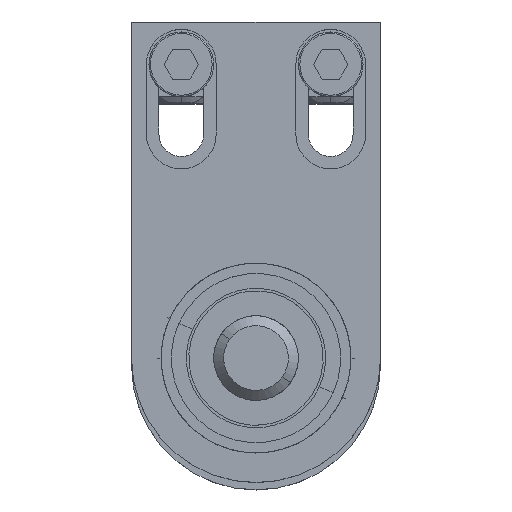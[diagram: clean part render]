
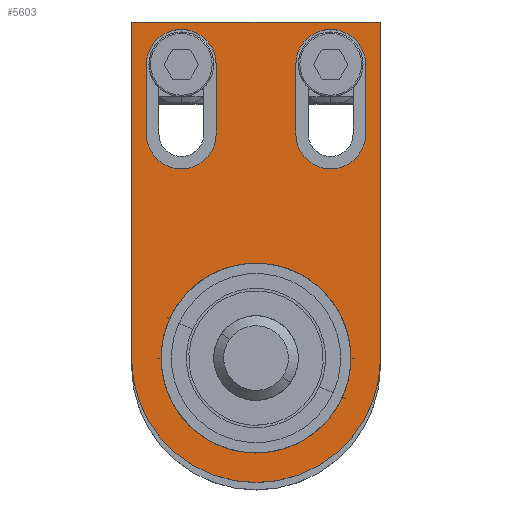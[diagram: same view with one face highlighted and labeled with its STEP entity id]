
A CAD part, top view. The second image highlights one B-rep face of the part: STEP entity #5603.
In plain terms, the highlighted planar face has unit normal (0, 0, 1).
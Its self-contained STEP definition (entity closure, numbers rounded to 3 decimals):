
#43 = CARTESIAN_POINT ( 'NONE',  ( 8., 59., 6. ) ) ;
#99 = DIRECTION ( 'NONE',  ( 0., 0., 1. ) ) ;
#132 = ORIENTED_EDGE ( 'NONE', *, *, #3735, .F. ) ;
#167 = CARTESIAN_POINT ( 'NONE',  ( 22., 59., 6. ) ) ;
#299 = ORIENTED_EDGE ( 'NONE', *, *, #4141, .T. ) ;
#303 = ORIENTED_EDGE ( 'NONE', *, *, #3632, .F. ) ;
#308 = ORIENTED_EDGE ( 'NONE', *, *, #4444, .F. ) ;
#414 = CARTESIAN_POINT ( 'NONE',  ( 22., 45., 6. ) ) ;
#436 = AXIS2_PLACEMENT_3D ( 'NONE', #4844, #2065, #5330 ) ;
#437 = DIRECTION ( 'NONE',  ( 1., 0., 0. ) ) ;
#458 = EDGE_CURVE ( 'NONE', #1778, #5348, #3074, .T. ) ;
#552 = VECTOR ( 'NONE', #2283, 1000. ) ;
#781 = CARTESIAN_POINT ( 'NONE',  ( 25., 67.5, 6. ) ) ;
#810 = EDGE_CURVE ( 'NONE', #1026, #5552, #5564, .T. ) ;
#874 = CARTESIAN_POINT ( 'NONE',  ( -8., 59., 6. ) ) ;
#889 = CARTESIAN_POINT ( 'NONE',  ( -15., 59., 6. ) ) ;
#916 = CARTESIAN_POINT ( 'NONE',  ( 0., 0., 6. ) ) ;
#1026 = VERTEX_POINT ( 'NONE', #1683 ) ;
#1075 = AXIS2_PLACEMENT_3D ( 'NONE', #5118, #99, #2319 ) ;
#1082 = ORIENTED_EDGE ( 'NONE', *, *, #1971, .T. ) ;
#1098 = EDGE_CURVE ( 'NONE', #3163, #1290, #3086, .T. ) ;
#1169 = VECTOR ( 'NONE', #2685, 1000. ) ;
#1195 = DIRECTION ( 'NONE',  ( 0., 1., 0. ) ) ;
#1290 = VERTEX_POINT ( 'NONE', #2784 ) ;
#1302 = CARTESIAN_POINT ( 'NONE',  ( 19.079, 0., 6. ) ) ;
#1331 = VECTOR ( 'NONE', #1195, 1000. ) ;
#1382 = DIRECTION ( 'NONE',  ( 0., -1., 0. ) ) ;
#1413 = DIRECTION ( 'NONE',  ( 0., 0., 1. ) ) ;
#1414 = CIRCLE ( 'NONE', #4066, 7. ) ;
#1430 = AXIS2_PLACEMENT_3D ( 'NONE', #2843, #4186, #6015 ) ;
#1574 = DIRECTION ( 'NONE',  ( 0., 1., 0. ) ) ;
#1647 = ORIENTED_EDGE ( 'NONE', *, *, #1805, .F. ) ;
#1676 = ORIENTED_EDGE ( 'NONE', *, *, #5867, .F. ) ;
#1683 = CARTESIAN_POINT ( 'NONE',  ( 8., 45., 6. ) ) ;
#1778 = VERTEX_POINT ( 'NONE', #5851 ) ;
#1803 = DIRECTION ( 'NONE',  ( 1., 0., 0. ) ) ;
#1805 = EDGE_CURVE ( 'NONE', #3572, #5338, #4705, .T. ) ;
#1971 = EDGE_CURVE ( 'NONE', #2028, #5291, #5980, .T. ) ;
#1979 = DIRECTION ( 'NONE',  ( 1., 0., 0. ) ) ;
#2018 = CARTESIAN_POINT ( 'NONE',  ( -25., 0., 6. ) ) ;
#2028 = VERTEX_POINT ( 'NONE', #2018 ) ;
#2065 = DIRECTION ( 'NONE',  ( 0., 0., 1. ) ) ;
#2116 = DIRECTION ( 'NONE',  ( 0., -1., 0. ) ) ;
#2132 = ORIENTED_EDGE ( 'NONE', *, *, #4653, .F. ) ;
#2248 = AXIS2_PLACEMENT_3D ( 'NONE', #889, #2710, #1803 ) ;
#2279 = FACE_BOUND ( 'NONE', #4379, .T. ) ;
#2283 = DIRECTION ( 'NONE',  ( 0., 1., 0. ) ) ;
#2293 = LINE ( 'NONE', #3774, #5872 ) ;
#2319 = DIRECTION ( 'NONE',  ( 1., 0., 0. ) ) ;
#2536 = CARTESIAN_POINT ( 'NONE',  ( 22., 59., 6. ) ) ;
#2596 = CIRCLE ( 'NONE', #1430, 19.079 ) ;
#2678 = DIRECTION ( 'NONE',  ( 0., 0., 1. ) ) ;
#2685 = DIRECTION ( 'NONE',  ( -1., 0., 0. ) ) ;
#2710 = DIRECTION ( 'NONE',  ( 0., 0., 1. ) ) ;
#2784 = CARTESIAN_POINT ( 'NONE',  ( -8., 45., 6. ) ) ;
#2812 = CARTESIAN_POINT ( 'NONE',  ( -22., 59., 6. ) ) ;
#2820 = VECTOR ( 'NONE', #2116, 1000. ) ;
#2837 = CARTESIAN_POINT ( 'NONE',  ( -22., 45., 6. ) ) ;
#2843 = CARTESIAN_POINT ( 'NONE',  ( 0., 0., 6. ) ) ;
#2885 = CARTESIAN_POINT ( 'NONE',  ( 15., 59., 6. ) ) ;
#2905 = PLANE ( 'NONE',  #5862 ) ;
#2944 = LINE ( 'NONE', #5306, #4975 ) ;
#2966 = VERTEX_POINT ( 'NONE', #1302 ) ;
#2988 = ORIENTED_EDGE ( 'NONE', *, *, #810, .F. ) ;
#3074 = LINE ( 'NONE', #781, #1169 ) ;
#3083 = LINE ( 'NONE', #5977, #552 ) ;
#3086 = CIRCLE ( 'NONE', #4800, 7. ) ;
#3119 = EDGE_LOOP ( 'NONE', ( #1082, #5953, #4113, #299 ) ) ;
#3163 = VERTEX_POINT ( 'NONE', #2837 ) ;
#3173 = CARTESIAN_POINT ( 'NONE',  ( 25., 0., 6. ) ) ;
#3235 = FACE_BOUND ( 'NONE', #4971, .T. ) ;
#3328 = LINE ( 'NONE', #5926, #2820 ) ;
#3332 = CARTESIAN_POINT ( 'NONE',  ( 0., 0., 6. ) ) ;
#3450 = AXIS2_PLACEMENT_3D ( 'NONE', #916, #4632, #3742 ) ;
#3572 = VERTEX_POINT ( 'NONE', #874 ) ;
#3592 = CARTESIAN_POINT ( 'NONE',  ( -15., 45., 6. ) ) ;
#3632 = EDGE_CURVE ( 'NONE', #3902, #2966, #2596, .T. ) ;
#3684 = VERTEX_POINT ( 'NONE', #43 ) ;
#3735 = EDGE_CURVE ( 'NONE', #3837, #3684, #1414, .T. ) ;
#3742 = DIRECTION ( 'NONE',  ( 1., 0., 0. ) ) ;
#3774 = CARTESIAN_POINT ( 'NONE',  ( 8., 59., 6. ) ) ;
#3788 = CARTESIAN_POINT ( 'NONE',  ( -25., 67.5, 6. ) ) ;
#3837 = VERTEX_POINT ( 'NONE', #167 ) ;
#3902 = VERTEX_POINT ( 'NONE', #5770 ) ;
#3910 = DIRECTION ( 'NONE',  ( 0., -1., 0. ) ) ;
#4066 = AXIS2_PLACEMENT_3D ( 'NONE', #2885, #5225, #1979 ) ;
#4106 = FACE_BOUND ( 'NONE', #4385, .T. ) ;
#4113 = ORIENTED_EDGE ( 'NONE', *, *, #458, .T. ) ;
#4141 = EDGE_CURVE ( 'NONE', #5348, #2028, #3328, .T. ) ;
#4186 = DIRECTION ( 'NONE',  ( 0., 0., 1. ) ) ;
#4229 = DIRECTION ( 'NONE',  ( 1., 0., 0. ) ) ;
#4379 = EDGE_LOOP ( 'NONE', ( #303, #4683 ) ) ;
#4385 = EDGE_LOOP ( 'NONE', ( #132, #5643, #2988, #308 ) ) ;
#4444 = EDGE_CURVE ( 'NONE', #3684, #1026, #2293, .T. ) ;
#4632 = DIRECTION ( 'NONE',  ( 0., 0., 1. ) ) ;
#4653 = EDGE_CURVE ( 'NONE', #1290, #3572, #5800, .T. ) ;
#4683 = ORIENTED_EDGE ( 'NONE', *, *, #5549, .F. ) ;
#4705 = CIRCLE ( 'NONE', #2248, 7. ) ;
#4775 = CIRCLE ( 'NONE', #3450, 19.079 ) ;
#4800 = AXIS2_PLACEMENT_3D ( 'NONE', #3592, #2678, #437 ) ;
#4844 = CARTESIAN_POINT ( 'NONE',  ( 15., 45., 6. ) ) ;
#4970 = EDGE_CURVE ( 'NONE', #5552, #3837, #5135, .T. ) ;
#4971 = EDGE_LOOP ( 'NONE', ( #1647, #2132, #5239, #1676 ) ) ;
#4975 = VECTOR ( 'NONE', #3910, 1000. ) ;
#5118 = CARTESIAN_POINT ( 'NONE',  ( 0., 0., 6. ) ) ;
#5135 = LINE ( 'NONE', #2536, #5354 ) ;
#5225 = DIRECTION ( 'NONE',  ( 0., 0., 1. ) ) ;
#5239 = ORIENTED_EDGE ( 'NONE', *, *, #1098, .F. ) ;
#5291 = VERTEX_POINT ( 'NONE', #3173 ) ;
#5306 = CARTESIAN_POINT ( 'NONE',  ( -22., 59., 6. ) ) ;
#5330 = DIRECTION ( 'NONE',  ( 1., 0., 0. ) ) ;
#5338 = VERTEX_POINT ( 'NONE', #2812 ) ;
#5348 = VERTEX_POINT ( 'NONE', #3788 ) ;
#5354 = VECTOR ( 'NONE', #1574, 1000. ) ;
#5500 = EDGE_CURVE ( 'NONE', #5291, #1778, #3083, .T. ) ;
#5549 = EDGE_CURVE ( 'NONE', #2966, #3902, #4775, .T. ) ;
#5552 = VERTEX_POINT ( 'NONE', #414 ) ;
#5564 = CIRCLE ( 'NONE', #436, 7. ) ;
#5603 = ADVANCED_FACE ( 'NONE', ( #4106, #3235, #2279, #5934 ), #2905, .T. ) ;
#5643 = ORIENTED_EDGE ( 'NONE', *, *, #4970, .F. ) ;
#5770 = CARTESIAN_POINT ( 'NONE',  ( -19.079, 0., 6. ) ) ;
#5800 = LINE ( 'NONE', #5899, #1331 ) ;
#5851 = CARTESIAN_POINT ( 'NONE',  ( 25., 67.5, 6. ) ) ;
#5862 = AXIS2_PLACEMENT_3D ( 'NONE', #3332, #1413, #4229 ) ;
#5867 = EDGE_CURVE ( 'NONE', #5338, #3163, #2944, .T. ) ;
#5872 = VECTOR ( 'NONE', #1382, 1000. ) ;
#5899 = CARTESIAN_POINT ( 'NONE',  ( -8., 59., 6. ) ) ;
#5926 = CARTESIAN_POINT ( 'NONE',  ( -25., 0., 6. ) ) ;
#5934 = FACE_OUTER_BOUND ( 'NONE', #3119, .T. ) ;
#5953 = ORIENTED_EDGE ( 'NONE', *, *, #5500, .T. ) ;
#5977 = CARTESIAN_POINT ( 'NONE',  ( 25., 0., 6. ) ) ;
#5980 = CIRCLE ( 'NONE', #1075, 25. ) ;
#6015 = DIRECTION ( 'NONE',  ( 1., 0., 0. ) ) ;
